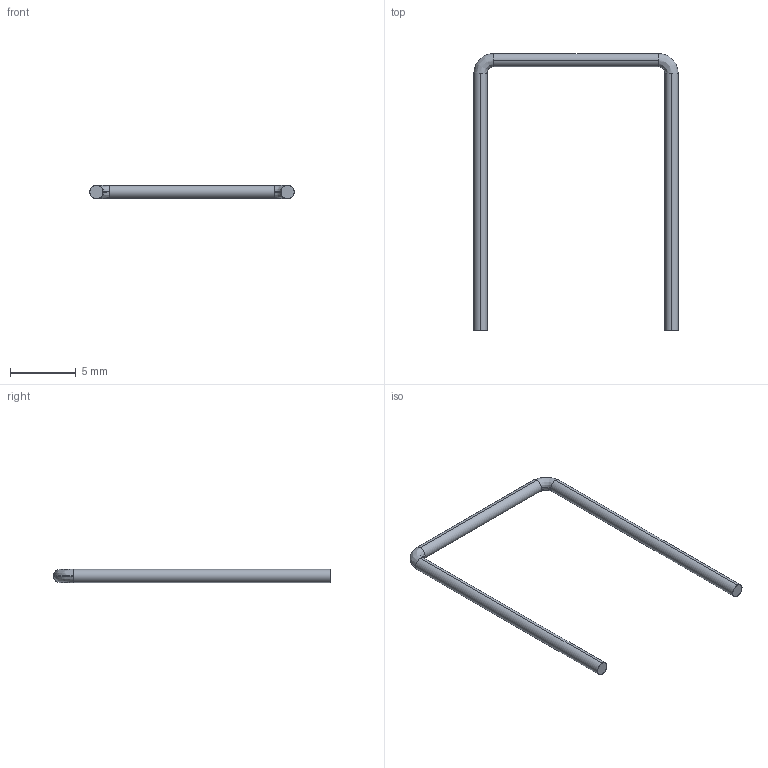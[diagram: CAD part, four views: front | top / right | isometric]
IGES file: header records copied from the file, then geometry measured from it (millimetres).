
Start section: SolidWorks IGES file using analytic representation for surfaces
Global section: file name: J:\Literature Library\Generic 3D Models for Customers\PP15-45 Housings\IGES files\114555P6.IGS; native system: SolidWorks 2007; preprocessor: SolidWorks 2007; author: CSvelnis; date: 090218.094308; units: millimetre
Bounding box: 15.5 x 21 x 1 mm (x, y, z)
Surface area: 173.2 mm2 (no closed solid volume)
Topology: 0 solids, 0 shells, 12 faces, 88 edges, 88 vertices
Faces by surface type: bspline 6, revolution 6
